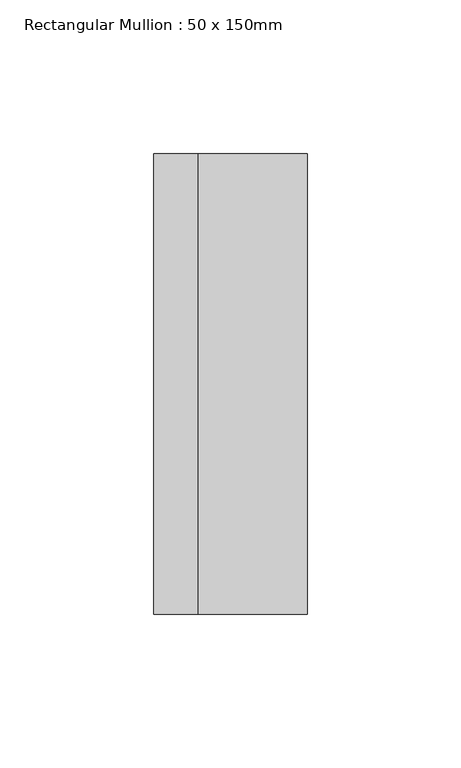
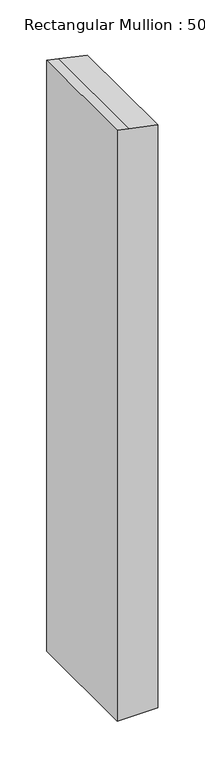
"""IFC4 building model written with IfcOpenShell, lengths in millimetres: member geometry, Rectangular Mullion : 50 x 150mm."""

from ifc_helpers import new_model, si_unit, frame, origin, place, context, project, spatial, polyline, outline, extrude, source, transform, mapped, element, save


def rectangular_mullion_50_x_150mm_12241330(model_context):
    return source(origin(), model_context, "Body", "SweptSolid", [
        extrude(outline(polyline([(-56.4764416, 25.0), (-48.8945724, -10.4556584), (-45.7843976, -25.0), (-815.1021221, -25.0), (-815.1021221, 25.0), (-56.4764416, 25.0)])), frame((0.0, -75.0, 0.0), z_axis=(0.0, 1.0, 0.0), x_axis=(0.0, 0.0, 1.0)), (0.0, 0.0, 1.0), 150.0),
    ])


if __name__ == "__main__":
    model = new_model("IFC4")
    model_context = context("Model", 3, world=origin())
    ifc_project = project(units=[si_unit("LENGTHUNIT", "METRE", prefix="MILLI")], contexts=[model_context])
    site = spatial("IfcSite", under=ifc_project)
    building = spatial("IfcBuilding", under=site)
    placement = place(None, origin())
    rectangular_mullion_50_x_150mm_shape = rectangular_mullion_50_x_150mm_12241330(model_context)
    element("IfcMember", 1, ObjectType="Rectangular Mullion : 50 x 150mm", at=placement, inside=building, context=model_context, shape_type="MappedRepresentation", body=[
        mapped(rectangular_mullion_50_x_150mm_shape, transform((0.0, 0.0, 0.0), x_axis=(1.0, 0.0, 0.0), y_axis=(0.0, 1.0, 0.0), z_axis=(0.0, 0.0, 1.0))),
    ])
    save(model, "model.ifc")
